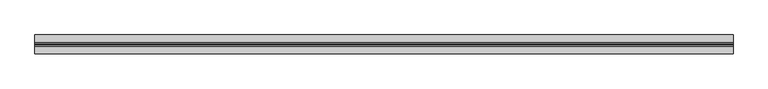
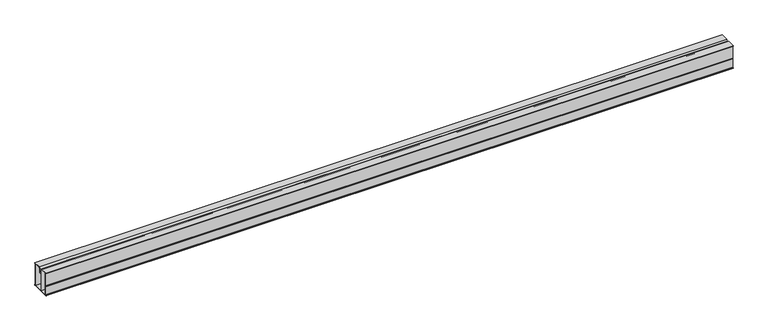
"""IFC4 building model written with IfcOpenShell, lengths in millimetres: proxy geometry, Legar LD5039ALU : Legar LD5039ALU."""

from ifc_helpers import new_model, si_unit, point, frame, frame_2d, origin, place, context, project, spatial, polyline, circle_curve, trimmed, segment, composite_curve, outline, extrude, source, transform, mapped, element, save


def generic_models_7513529a(model_context):
    return source(origin(), model_context, "Body", "SweptSolid", [
        extrude(outline(composite_curve([segment(polyline([(-18.441317, 40.1088688), (-17.6447159, 40.90547), (-18.4678704, 41.7286245), (-17.6380775, 42.5584174), (-18.4678704, 43.3882103), (-17.6911843, 44.1648964), (-18.4612321, 44.9349442), (-17.6048858, 45.7912905), (-18.6802974, 46.8667021), (-15.5469995, 50.0), (0.0, 50.0), (0.0, 48.5130112), (-2.0578864, 48.5130112), (-2.0578864, 21.3090813), (-0.9028147, 21.3090813), (-0.9028147, 20.260223), (-2.0578864, 20.260223), (-2.0578864, 1.5932023), (0.0265534, 1.5932023), (0.0265534, 0.8098779)]), True, "CONTINUOUS"), segment(trimmed(circle_curve(frame_2d((-0.9163794, 0.953749)), 0.9538454), [point((0.0265534, 0.8098779))], [point((-0.9028147, 0.0))], False, "CARTESIAN"), True, "CONTINUOUS"), segment(polyline([(-0.9028147, 0.0), (-38.4158258, 0.0)]), True, "CONTINUOUS"), segment(trimmed(circle_curve(frame_2d((-38.2944084, 0.6683312)), 0.6792708), [point((-38.4158258, 0.0))], [point((-38.9734466, 0.6505576))], False, "CARTESIAN"), True, "CONTINUOUS"), segment(polyline([(-38.9734466, 0.6505576), (-38.9734466, 1.5268189), (-37.0483271, 1.5268189), (-37.0483271, 20.3398832), (-38.4423792, 20.3398832), (-38.4423792, 21.4020181), (-37.0483271, 21.4020181), (-37.0483271, 48.5262878), (-38.9734466, 48.5262878), (-38.9734466, 50.0398301), (-23.5793946, 50.0398301), (-20.8045672, 47.3313861), (-21.4212441, 46.6995945), (-20.5962163, 45.8943042), (-21.3601958, 45.1115997), (-20.5301582, 44.3014194), (-21.3195719, 43.4926573), (-20.529678, 42.7216603), (-21.3657053, 41.8651422), (-20.5895721, 41.1075767), (-21.4519862, 40.224025), (-20.6428337, 39.4342302), (-21.500545, 38.5554965), (-18.5608072, 38.5554965), (-17.724376, 39.3919278), (-18.441317, 40.1088688)]), True, "CONTINUOUS")], self_intersect=False), holes=[polyline([(-22.5172597, 1.5002655), (-22.5172597, 46.5572857), (-24.5986524, 48.5395645), (-35.5480616, 48.5395645), (-35.5480616, 1.5002655), (-22.5172597, 1.5002655)]), polyline([(-21.0169942, 1.5002655), (-3.5581519, 1.5002655), (-3.5581519, 48.4997345), (-14.5645247, 48.4997345), (-16.5161976, 46.6409984), (-16.5161976, 37.5066383), (-21.0169942, 37.5066383), (-21.0169942, 1.5002655)])]), frame((0.0, 0.0, 0.0), z_axis=(1.0, 0.0, 0.0), x_axis=(0.0, 1.0, 0.0)), (0.0, 0.0, 1.0), 1437.8216861),
    ])


if __name__ == "__main__":
    model = new_model("IFC4")
    model_context = context("Model", 3, world=origin())
    ifc_project = project(units=[si_unit("LENGTHUNIT", "METRE", prefix="MILLI")], contexts=[model_context])
    site = spatial("IfcSite", under=ifc_project)
    building = spatial("IfcBuilding", under=site)
    placement = place(None, origin())
    generic_models_shape = generic_models_7513529a(model_context)
    element("IfcBuildingElementProxy", 1, Name="Legar LD5039ALU : Legar LD5039ALU", ObjectType="Legar LD5039ALU : Legar LD5039ALU", at=placement, inside=building, context=model_context, shape_type="MappedRepresentation", body=[
        mapped(generic_models_shape, transform((0.0, 0.0, 0.0), x_axis=(1.0, 0.0, 0.0), y_axis=(0.0, 1.0, 0.0), z_axis=(0.0, 0.0, 1.0))),
    ])
    save(model, "model.ifc")
